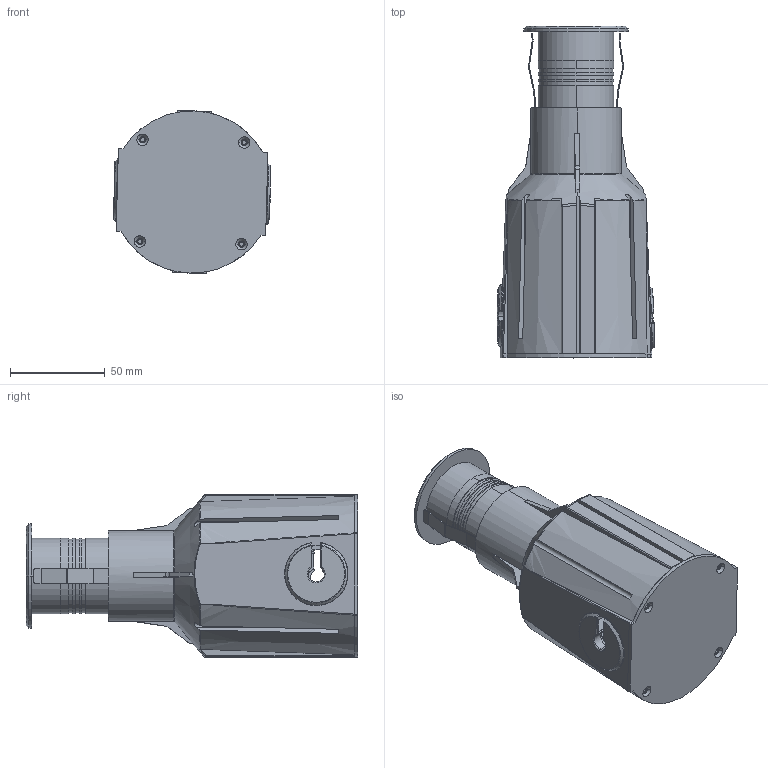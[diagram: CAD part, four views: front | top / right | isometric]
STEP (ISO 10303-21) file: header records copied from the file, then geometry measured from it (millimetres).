
FILE_DESCRIPTION((''),'2;1');
FILE_NAME('ASM0001_ASM','2024-11-23T',('Administrator'),(''),'CREO PARAMETRIC BY PTC INC, 2014500','CREO PARAMETRIC BY PTC INC, 2014500','');
FILE_SCHEMA(('CONFIG_CONTROL_DESIGN'));
Length unit declared in the file: millimetre
Products named in the file (22): 2W__115_1_1_1; POWER-BOX_100_1_1_1; BACK-COVER_114_1_1_1; ASM0002_ASM_100_ASM_1_ASM_1_1_ASM; KAHUANG_103_1_1_1; MIANGAI_74_1_1_1; PRT0011_64_1_1_1; BOLI-2_50_1_1_1; PCB-002_19_1_1_1; MSBR-4_12_1_1_1; MSBR-6_12_1_1_1; 00000_12_1_1_1; PAD_1_1_1; FANGUANGSAI-1_1_1_1; FANGSHUISAI_1_1_1; PG9_ASM_5_ASM_1_1_ASM; 2XA__1_1; 2XA-__1_1; Y_1_1; ASM0001_ASM_1_1_ASM; 2W_ASM_101_ASM_1_ASM_1_1_ASM; ASM0001_ASM
Assembly tree (22 placements, depth 4):
  ASM0001_ASM
    2W_ASM_101_ASM_1_ASM_1_1_ASM
      2W__115_1_1_1
      POWER-BOX_100_1_1_1
      ASM0002_ASM_100_ASM_1_ASM_1_1_ASM
        BACK-COVER_114_1_1_1
      KAHUANG_103_1_1_1
      MIANGAI_74_1_1_1
      PRT0011_64_1_1_1
      BOLI-2_50_1_1_1
      PCB-002_19_1_1_1
      MSBR-4_12_1_1_1
      MSBR-6_12_1_1_1
      00000_12_1_1_1
      PG9_ASM_5_ASM_1_1_ASM
        PAD_1_1_1
        FANGUANGSAI-1_1_1_1
        FANGSHUISAI_1_1_1
      ASM0001_ASM_1_1_ASM
        2XA__1_1
        2XA-__1_1
        Y_1_1  x2
Bounding box: 83.01 x 175.28 x 86.13 mm (x, y, z)
Volume: 166517.5 mm3; surface area: 137911.6 mm2
Topology: 18 solids, 18 shells, 1292 faces, 3689 edges, 2453 vertices
Faces by surface type: plane 689, cylinder 320, cone 117, bspline 110, torus 36, sphere 20
Entity records: 51481 total; most frequent: CARTESIAN_POINT 20104, ORIENTED_EDGE 7028, DIRECTION 5813, EDGE_CURVE 3514, VERTEX_POINT 2337, AXIS2_PLACEMENT_3D 2101, VECTOR 1611, LINE 1611
